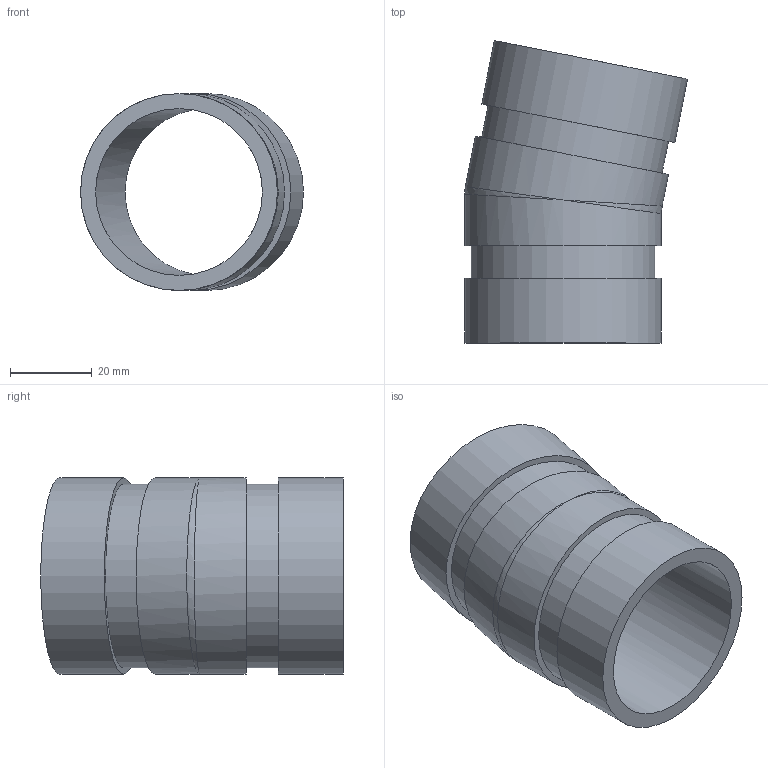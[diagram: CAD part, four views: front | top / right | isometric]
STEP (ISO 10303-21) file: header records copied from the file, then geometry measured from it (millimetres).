
FILE_DESCRIPTION(/* description */ ('VIC 11-1/4 DEG. ELBOW No 13','CAx-IF Rec.Pracs.---Representation and Presentation of Product Manufacturing Information (PMI)---4.0---2014-10-13'),/* implementation_level */ '2;1');
FILE_NAME(/* name */ 'C:\Users\kkamble\AppData\Roaming\Autodesk\ApplicationPlugins\Back Up\Victaulic_IPS_Elbow 11.25 Deg_No 13 (OGS)\Victaulic_IPS_Elbow 11.25 Deg_No 13 (OGS)_1.5 (40).stp',/* time_stamp */ '2020-07-24T08:08:49+06:00',/* author */ ('CONSTRUCTION PIPING SERVICES'),/* organization */ ('Victaulic'),/* preprocessor_version */ 'ST-DEVELOPER v17.2',/* originating_system */ 'Autodesk Inventor 2019',/* authorisation */ '');
FILE_SCHEMA (('AP242_MANAGED_MODEL_BASED_3D_ENGINEERING_MIM_LF { 1 0 10303 442 1 1 4 }'));
Length unit declared in the file: inch
Products named in the file (1): 013-01.5
Bounding box: 54.63 x 74.14 x 48.26 mm (x, y, z)
Volume: 32456.9 mm3; surface area: 21438.8 mm2
Topology: 1 solids, 1 shells, 16 faces, 37 edges, 23 vertices
Faces by surface type: cylinder 8, plane 6, bspline 2
Full cylindrical faces by diameter (mm): 40.894 x2, 45.085 x2, 48.26 x4
Entity records: 581 total; most frequent: CARTESIAN_POINT 151, DIRECTION 88, ORIENTED_EDGE 66, AXIS2_PLACEMENT_3D 40, EDGE_CURVE 33, VERTEX_POINT 23, EDGE_LOOP 22, STYLED_ITEM 17
